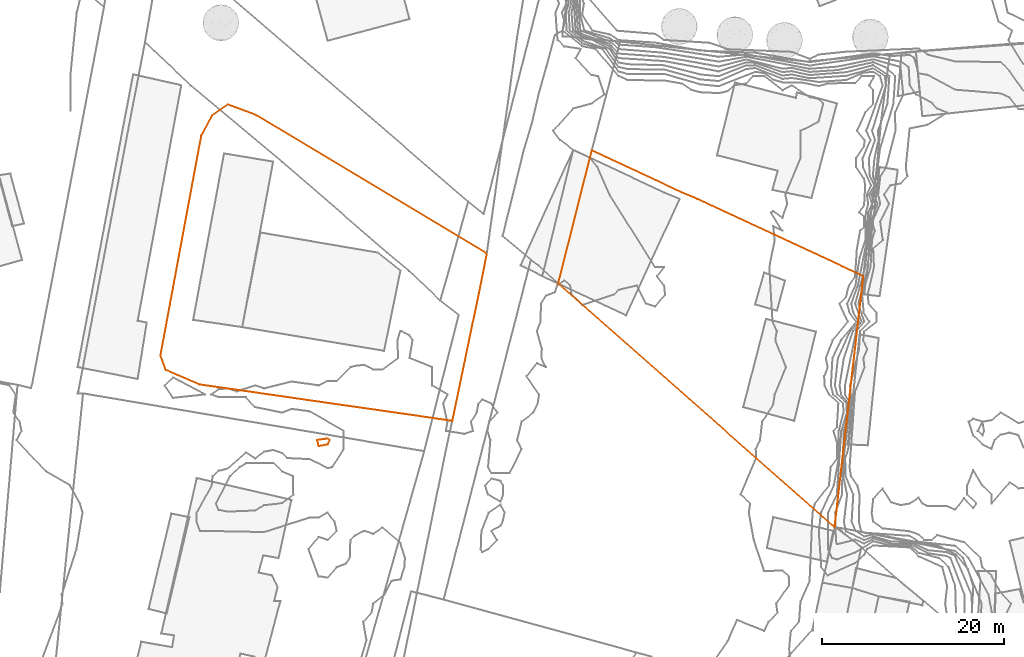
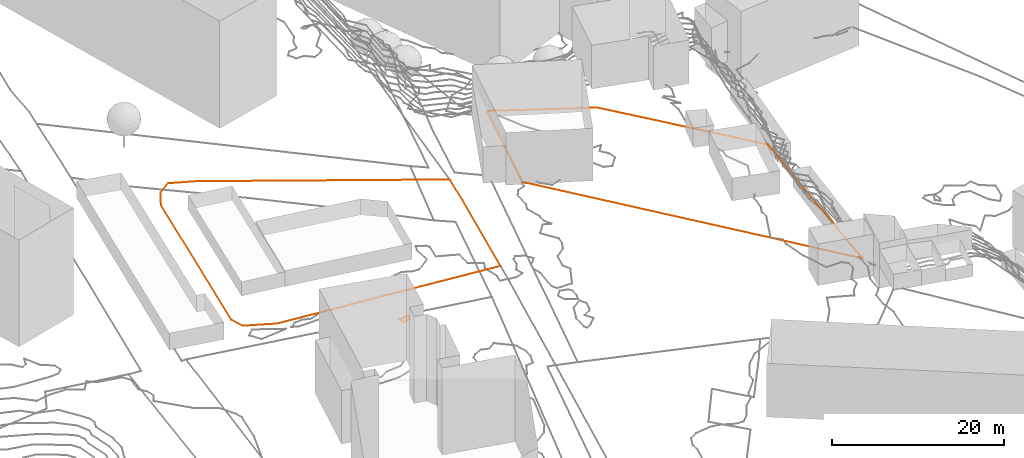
# Not in any storey, part 376 of 419: 4 proxies.
"""IFC2X3 model written with IfcOpenShell, lengths in metres."""

from ifc_helpers import new_model, entity, si_unit, frame, origin_with_axes, place, context, subcontext, project, element, save


model = new_model("IFC2X3")

# Units and contexts
model_context = context("Model", 3, precision=1e-05, world=origin_with_axes())
body_context = subcontext(model_context, "Body", "Model", "MODEL_VIEW")
ifc_project = project(units=[si_unit("AREAUNIT", "SQUARE_METRE"), si_unit("LENGTHUNIT", "METRE")], contexts=[model_context])

# Proxies
proxy_1_placement = place(None, frame((909.7920204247, 838.9976909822, 98.2), z_axis=(0.0, 0.0, 1.0), x_axis=(1.0, 0.0, 0.0)))
element("IfcBuildingElementProxy", 1, at=proxy_1_placement, Name="Route 45", ObjectType="NOTDEFINED", context=body_context, shape_type="GeometricCurveSet", body=[
    entity("IfcGeometricCurveSet", [entity("IfcPolyline", [entity("IfcCartesianPoint", [3.8, 18.4000000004, -0.2]), entity("IfcCartesianPoint", [2.9, 13.9000000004, -0.1]), entity("IfcCartesianPoint", [0.0, 0.0, 0.0])])]),
])
proxy_2_placement = place(None, frame((877.6920204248, 846.1976909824, 97.4), z_axis=(0.0, 0.0, 1.0), x_axis=(1.0, 0.0, 0.0)))
element("IfcBuildingElementProxy", 2, at=proxy_2_placement, Name="Route 297", ObjectType="NOTDEFINED", context=body_context, shape_type="GeometricCurveSet", body=[
    entity("IfcGeometricCurveSet", [entity("IfcPolyline", [entity("IfcCartesianPoint", [35.9, 11.2000000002, 0.6]), entity("IfcCartesianPoint", [10.6, 26.4000000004, 0.0]), entity("IfcCartesianPoint", [7.4, 27.6000000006, 0.1]), entity("IfcCartesianPoint", [5.7000000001, 26.4000000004, 0.1]), entity("IfcCartesianPoint", [4.5, 24.2000000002, 0.1]), entity("IfcCartesianPoint", [0.0, 0.0, 0.0]), entity("IfcCartesianPoint", [0.6, -1.5999999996, -0.1]), entity("IfcCartesianPoint", [4.3, -3.2000000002, -0.1]), entity("IfcCartesianPoint", [32.1, -7.2000000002, 0.8])])]),
])
proxy_3_placement = place(None, frame((921.4220204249, 854.0976909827, 96.9225515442), z_axis=(0.0, 0.0, 1.0), x_axis=(1.0, 0.0, 0.0)))
element("IfcBuildingElementProxy", 3, at=proxy_3_placement, Name="Cadastre 233", ObjectType="NOTDEFINED", context=body_context, shape_type="GeometricCurveSet", body=[
    entity("IfcGeometricCurveSet", [entity("IfcPolyline", [entity("IfcCartesianPoint", [30.4299999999, -26.8200000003, -5.3124702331]), entity("IfcCartesianPoint", [0.0, 0.0, 0.0]), entity("IfcCartesianPoint", [0.22, 0.8399999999, 0.0834972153]), entity("IfcCartesianPoint", [3.71, 14.6500000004, -0.0853711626]), entity("IfcCartesianPoint", [13.6599999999, 10.0, -0.3558317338]), entity("IfcCartesianPoint", [15.37, 9.29, -0.4251343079]), entity("IfcCartesianPoint", [33.5699999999, 0.8200000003, -6.9486328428]), entity("IfcCartesianPoint", [30.4399999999, -26.54, -5.3721144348]), entity("IfcCartesianPoint", [30.4299999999, -26.8200000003, -5.3124702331])])]),
])
proxy_4_placement = place(None, frame((894.9381968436, 836.8976909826, 97.0), z_axis=(0.0, 0.0, 1.0), x_axis=(1.0, 0.0, 0.0)))
element("IfcBuildingElementProxy", 4, at=proxy_4_placement, Name="Contour 97.0 m", ObjectType="NOTDEFINED", context=body_context, shape_type="GeometricCurveSet", body=[
    entity("IfcGeometricCurveSet", [entity("IfcPolyline", [entity("IfcCartesianPoint", [1.1538235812, -0.4999500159, 0.0]), entity("IfcCartesianPoint", [1.3538540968, 0.0, 0.0]), entity("IfcCartesianPoint", [1.1538235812, 0.1666878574, 0.0]), entity("IfcCartesianPoint", [0.0, 0.0, 0.0]), entity("IfcCartesianPoint", [0.1538235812, -0.6665818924, 0.0]), entity("IfcCartesianPoint", [1.1538235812, -0.4999500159, 0.0])])]),
])

save(model, "model.ifc")
